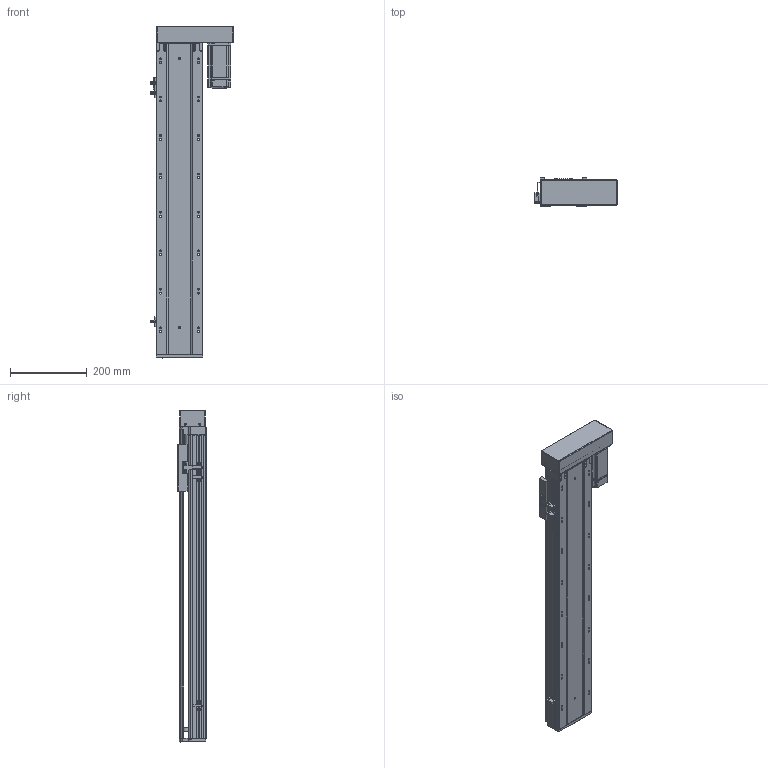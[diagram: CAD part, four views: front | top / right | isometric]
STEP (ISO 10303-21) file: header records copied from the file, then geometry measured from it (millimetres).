
FILE_DESCRIPTION (( 'STEP AP203' ), '1' );
FILE_NAME ('RY120-L1620-300-RK.SLDASM_600.step', '2021-02-22T02:30:00', ( '盈信电脑' ), ( '东莞市道滘镇水果街19号' ), 'SwSTEP 2.0', 'SolidWorks 2012', '' );
FILE_SCHEMA (( 'CONFIG_CONTROL_DESIGN' ));
Products named in the file (14): RY120-L1620-300-RK.SLDASM_600; RY120蛌殏萇儂欶; 侂狟400W侜督萇儂; RY120外置感应片(140共用）; RY120酘殏萇儂假蚾啣; RY120转拆电端丝杆支撑座; 15; 覜茼ん672; 滅袉蝶18-10; 滅袉蝶18-24; RY120-300-RK蛌殏倰第奻裔啣_600; RY120臏賑輸; RY120綴裔啣; RY120-300-RK蛌殏倰第菁釱_600
Assembly tree (16 placements, depth 3):
  RY120-L1620-300-RK.SLDASM_600
    RY120-300-RK蛌殏倰第菁釱_600
    RY120-300-RK蛌殏倰第奻裔啣_600
    RY120臏賑輸
    RY120綴裔啣
    覜茼ん672  x3
    滅袉蝶18-10
    滅袉蝶18-24  x2
    RY120外置感应片(140共用）
    RY120转拆电端丝杆支撑座
    RY120酘殏萇儂假蚾啣
    侂狟400W侜督萇儂
      15
    RY120蛌殏萇儂欶
Bounding box: 214.4 x 73 x 864 mm (x, y, z)
Volume: 2710306 mm3; surface area: 968744.1 mm2
Topology: 16 solids, 16 shells, 2450 faces, 6747 edges, 4328 vertices
Faces by surface type: plane 1226, cylinder 914, cone 205, bspline 105
Entity records: 81364 total; most frequent: CARTESIAN_POINT 23037, ORIENTED_EDGE 12214, DIRECTION 11227, EDGE_CURVE 6107, VERTEX_POINT 3996, LINE 3773, VECTOR 3773, AXIS2_PLACEMENT_3D 3727
